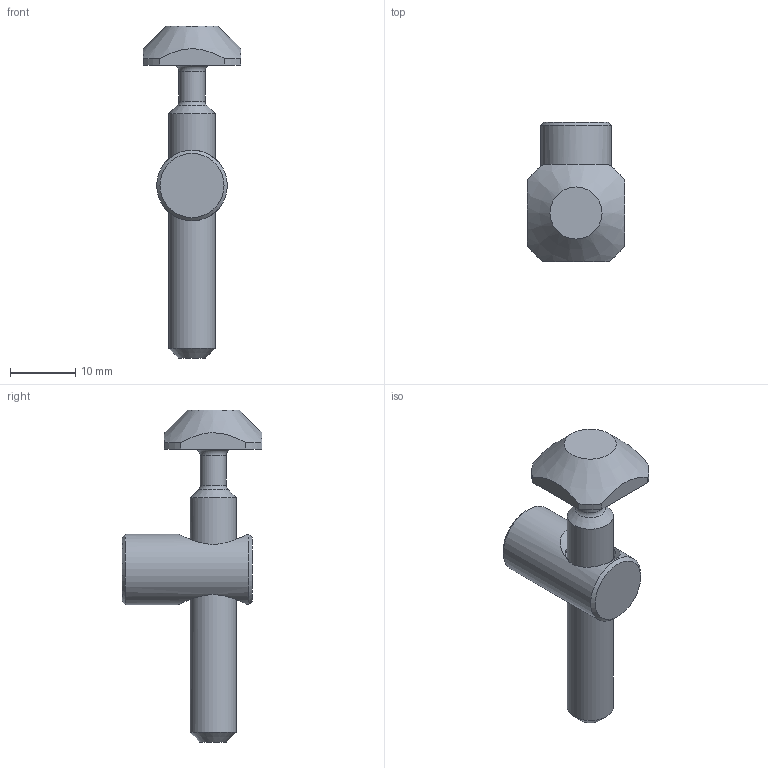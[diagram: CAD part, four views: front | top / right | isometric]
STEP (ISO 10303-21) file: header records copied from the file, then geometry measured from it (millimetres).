
FILE_DESCRIPTION (( 'STEP AP214' ), '1' );
FILE_NAME ('099B0811S02.STEP', '2015-05-18T12:20:39', ( 'Admin' ), ( 'Hewlett-Packard Company' ), 'SwSTEP 2.0', 'SolidWorks 2014', '' );
FILE_SCHEMA (( 'AUTOMOTIVE_DESIGN' ));
Length unit declared in the file: millimetre
Products named in the file (4): 099b0811s02r01; 4din914m0810m_4din914m0810m; D11 Buchse; 099B0811S02
Assembly tree (3 placements, depth 2):
  099B0811S02
    D11 Buchse
    4din914m0810m_4din914m0810m
    099b0811s02r01
Bounding box: 15 x 21.5 x 51 mm (x, y, z)
Volume: 3649.4 mm3; surface area: 3084 mm2
Topology: 3 solids, 3 shells, 60 faces, 140 edges, 87 vertices
Faces by surface type: plane 29, cone 15, cylinder 10, bspline 3, torus 2, sphere 1
Full cylindrical faces by diameter (mm): 4 x1, 7 x1, 7.1 x1, 7.7 x1, 10.85 x1
Entity records: 4007 total; most frequent: CARTESIAN_POINT 2653, DIRECTION 246, ORIENTED_EDGE 222, EDGE_CURVE 111, AXIS2_PLACEMENT_3D 99, EDGE_LOOP 81, VERTEX_POINT 76, FACE_OUTER_BOUND 66
